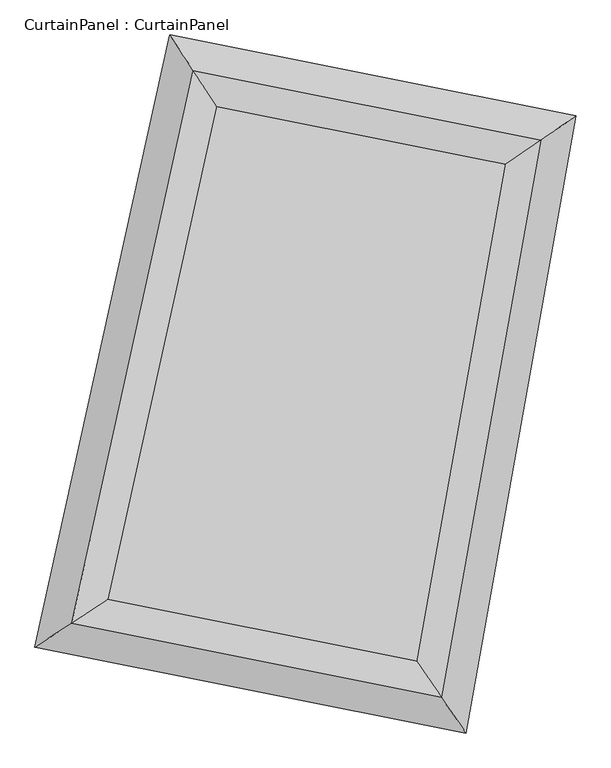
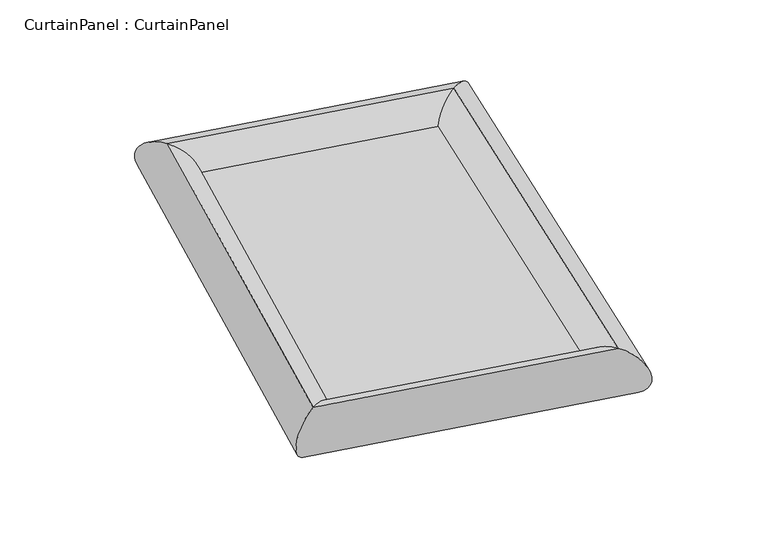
"""IFC4 building model written with IfcOpenShell, lengths in millimetres: plate geometry, CurtainPanel : CurtainPanel."""

from ifc_helpers import new_model, si_unit, frame, origin, origin_with_axes, place, context, project, spatial, polyline, ellipse_curve, outline, extrude, source, transform, mapped, element, save
from ifc_brep_helpers import cylinder_surface, advanced_brep


def curtainpanel_curtainpanel_2b252ce4(model_context):
    return source(origin(), model_context, "Body", "SolidModel", [
        extrude(outline(polyline([(2847.3777424, 2847.3777424), (3721.765931, 6810.0353472), (6215.589318, 6312.7798085), (5503.2670087, 2317.807102), (2847.3777424, 2847.3777424)])), origin_with_axes(), (0.0, 0.0, 1.0), 20.0),
        advanced_brep(
        [(2847.3777424, 2847.3777424, -220.0), (2847.3777424, 2847.3777424, 220.0), (5503.2670087, 2317.807102, 220.0), (5503.2670087, 2317.807102, -220.0), (6215.589318, 6312.7798085, 220.0), (6215.589318, 6312.7798085, -220.0), (3721.765931, 6810.0353472, 220.0), (3721.765931, 6810.0353472, -220.0)],
        [
            (0, 1, ellipse_curve(frame((2847.3777424, 2847.3777424, 0.0), z_axis=(0.5466873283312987, -0.8373368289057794, 0.0), x_axis=(-0.8373368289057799, -0.5466873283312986, 0.0)), 314.3437571, 220.0)),
            (1, 2),
            (2, 3, ellipse_curve(frame((5503.2670087, 2317.807102, 0.0), z_axis=(-0.8260316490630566, -0.5636237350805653, 0.0), x_axis=(-0.5636237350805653, 0.8260316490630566, 0.0)), 314.3437571, 220.0)),
            (3, 0),
            (1, 0, ellipse_curve(frame((2847.3777424, 2847.3777424, 0.0), z_axis=(0.5466873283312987, -0.8373368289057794, 0.0), x_axis=(-0.8373368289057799, -0.5466873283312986, 0.0)), 314.3437571, 220.0)),
            (3, 2, ellipse_curve(frame((5503.2670087, 2317.807102, 0.0), z_axis=(-0.8260316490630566, -0.5636237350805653, 0.0), x_axis=(-0.5636237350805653, 0.8260316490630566, 0.0)), 314.3437571, 220.0)),
            (2, 4),
            (4, 5, ellipse_curve(frame((6215.589318, 6312.7798085, 0.0), z_axis=(0.5636237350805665, -0.826031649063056, 0.0), x_axis=(-0.826031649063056, -0.563623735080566, 0.0)), 308.006986, 220.0)),
            (5, 3),
            (5, 4, ellipse_curve(frame((6215.589318, 6312.7798085, 0.0), z_axis=(0.5636237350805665, -0.826031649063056, 0.0), x_axis=(-0.826031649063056, -0.563623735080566, 0.0)), 308.006986, 220.0)),
            (4, 6),
            (6, 7, ellipse_curve(frame((3721.765931, 6810.0353472, 0.0), z_axis=(0.8373368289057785, 0.5466873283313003, 0.0), x_axis=(0.5466873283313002, -0.8373368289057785, 0.0)), 308.006986, 220.0)),
            (7, 5),
            (7, 6, ellipse_curve(frame((3721.765931, 6810.0353472, 0.0), z_axis=(0.8373368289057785, 0.5466873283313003, 0.0), x_axis=(0.5466873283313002, -0.8373368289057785, 0.0)), 308.006986, 220.0)),
            (6, 1),
            (0, 7),
        ],
        [
            cylinder_surface(frame((2847.3777424, 2847.3777424, 0.0), z_axis=(-0.9806946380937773, 0.19554545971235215, 0.0), x_axis=(0.19554545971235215, 0.9806946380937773, 0.0)), 220.0),
            cylinder_surface(frame((5503.2670087, 2317.807102, 0.0), z_axis=(-0.17553613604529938, -0.9844729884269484, 0.0), x_axis=(-0.9844729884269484, 0.17553613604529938, 0.0)), 220.0),
            cylinder_surface(frame((6215.589318, 6312.7798085, 0.0), z_axis=(0.980694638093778, -0.19554545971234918, 0.0), x_axis=(-0.19554545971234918, -0.980694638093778, 0.0)), 220.0),
            cylinder_surface(frame((3721.765931, 6810.0353472, 0.0), z_axis=(0.2154737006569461, 0.9765096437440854, 0.0), x_axis=(0.9765096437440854, -0.2154737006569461, 0.0)), 220.0),
        ],
        [
            (0, [[1, 2, 3, 4]]),
            (0, [[5, -4, 6, -2]]),
            (1, [[-3, 7, 8, 9]]),
            (1, [[-6, -9, 10, -7]]),
            (2, [[-8, 11, 12, 13]]),
            (2, [[-10, -13, 14, -11]]),
            (3, [[-12, 15, -1, 16]]),
            (3, [[-14, -16, -5, -15]]),
        ],
    ),
    ])


if __name__ == "__main__":
    model = new_model("IFC4")
    model_context = context("Model", 3, world=origin())
    ifc_project = project(units=[si_unit("LENGTHUNIT", "METRE", prefix="MILLI")], contexts=[model_context])
    site = spatial("IfcSite", under=ifc_project)
    building = spatial("IfcBuilding", under=site)
    placement = place(None, origin())
    curtainpanel_curtainpanel_shape = curtainpanel_curtainpanel_2b252ce4(model_context)
    element("IfcPlate", 1, ObjectType="CurtainPanel : CurtainPanel", at=placement, inside=building, context=model_context, shape_type="MappedRepresentation", body=[
        mapped(curtainpanel_curtainpanel_shape, transform((0.0, 0.0, 0.0), x_axis=(1.0, 0.0, 0.0), y_axis=(0.0, 1.0, 0.0), z_axis=(0.0, 0.0, 1.0))),
    ])
    save(model, "model.ifc")
